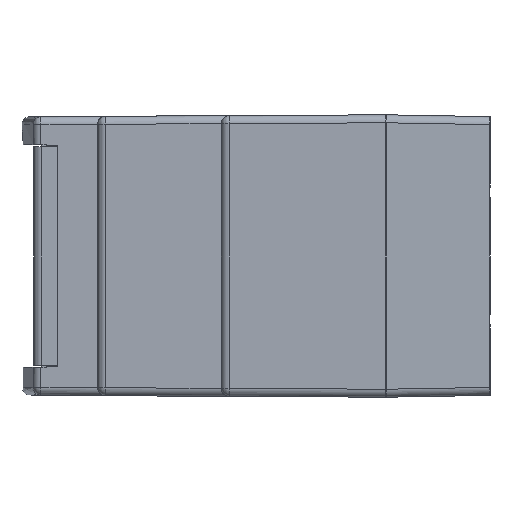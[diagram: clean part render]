
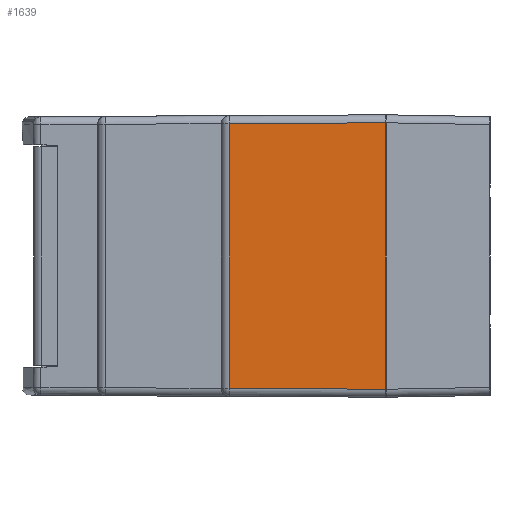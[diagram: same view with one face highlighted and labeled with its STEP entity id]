
A CAD part, left-side view. The second image highlights one B-rep face of the part: STEP entity #1639.
In plain terms, the highlighted planar face has unit normal (-1, 0.018, 0).
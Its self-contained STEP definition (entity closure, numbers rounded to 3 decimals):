
#268 = ORIENTED_EDGE ( 'NONE', *, *, #1940, .F. ) ;
#407 = VECTOR ( 'NONE', #14293, 1000. ) ;
#582 = LINE ( 'NONE', #14635, #6410 ) ;
#856 = VERTEX_POINT ( 'NONE', #7710 ) ;
#1404 = CARTESIAN_POINT ( 'NONE',  ( -45.3, -22.755, -16.65 ) ) ;
#1639 = ADVANCED_FACE ( 'NONE', ( #4187 ), #12288, .F. ) ;
#1940 = EDGE_CURVE ( 'NONE', #4543, #4638, #9122, .T. ) ;
#2437 = DIRECTION ( 'NONE',  ( 0., 0., -1. ) ) ;
#2629 = ORIENTED_EDGE ( 'NONE', *, *, #13886, .T. ) ;
#4187 = FACE_OUTER_BOUND ( 'NONE', #14307, .T. ) ;
#4214 = DIRECTION ( 'NONE',  ( 0., 0., -1. ) ) ;
#4543 = VERTEX_POINT ( 'NONE', #10402 ) ;
#4564 = CARTESIAN_POINT ( 'NONE',  ( -44.958, -3.133, 17.65 ) ) ;
#4638 = VERTEX_POINT ( 'NONE', #14923 ) ;
#4964 = CARTESIAN_POINT ( 'NONE',  ( -44.958, -3.133, -16.547 ) ) ;
#6027 = VECTOR ( 'NONE', #4214, 1000. ) ;
#6103 = ORIENTED_EDGE ( 'NONE', *, *, #12414, .T. ) ;
#6410 = VECTOR ( 'NONE', #9941, 1000. ) ;
#7597 = VERTEX_POINT ( 'NONE', #4964 ) ;
#7710 = CARTESIAN_POINT ( 'NONE',  ( -44.958, -3.133, 16.547 ) ) ;
#8693 = DIRECTION ( 'NONE',  ( 0.017, 1., 0. ) ) ;
#8779 = AXIS2_PLACEMENT_3D ( 'NONE', #14706, #9915, #8693 ) ;
#9122 = LINE ( 'NONE', #13675, #6027 ) ;
#9915 = DIRECTION ( 'NONE',  ( 1., -0.017, 0. ) ) ;
#9941 = DIRECTION ( 'NONE',  ( 0.017, 1., -0.005 ) ) ;
#10238 = ORIENTED_EDGE ( 'NONE', *, *, #10925, .T. ) ;
#10402 = CARTESIAN_POINT ( 'NONE',  ( -45.3, -22.75, 16.65 ) ) ;
#10925 = EDGE_CURVE ( 'NONE', #856, #7597, #11264, .T. ) ;
#11264 = LINE ( 'NONE', #4564, #13299 ) ;
#12288 = PLANE ( 'NONE',  #8779 ) ;
#12414 = EDGE_CURVE ( 'NONE', #7597, #4638, #13957, .T. ) ;
#13299 = VECTOR ( 'NONE', #2437, 1000. ) ;
#13675 = CARTESIAN_POINT ( 'NONE',  ( -45.3, -22.75, 17.65 ) ) ;
#13886 = EDGE_CURVE ( 'NONE', #4543, #856, #582, .T. ) ;
#13957 = LINE ( 'NONE', #1404, #407 ) ;
#14293 = DIRECTION ( 'NONE',  ( -0.017, -1., -0.005 ) ) ;
#14307 = EDGE_LOOP ( 'NONE', ( #10238, #6103, #268, #2629 ) ) ;
#14635 = CARTESIAN_POINT ( 'NONE',  ( -45.3, -22.755, 16.65 ) ) ;
#14706 = CARTESIAN_POINT ( 'NONE',  ( -45.3, -22.75, 17.65 ) ) ;
#14923 = CARTESIAN_POINT ( 'NONE',  ( -45.3, -22.75, -16.65 ) ) ;
